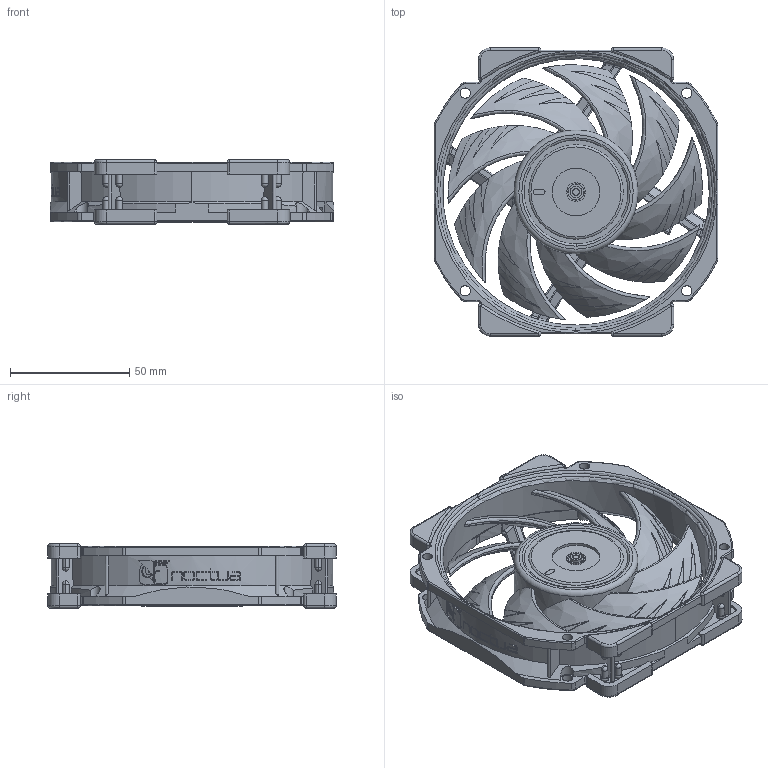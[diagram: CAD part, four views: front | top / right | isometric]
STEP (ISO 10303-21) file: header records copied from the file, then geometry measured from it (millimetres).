
FILE_DESCRIPTION(/* description */ ('140mm Desk Fan'),/* implementation_level */ '2;1');
FILE_NAME(/* name */ 'NF-A12x25r_Public-CAD',/* time_stamp */ '2026-04-09T17:36:39+02:00',/* author */ ('Andreas'),/* organization */ ('Rascom'),/* preprocessor_version */ 'ST-DEVELOPER v18.102',/* originating_system */ 'Solid Edge',/* authorisation */ 'Unknown');
FILE_SCHEMA (('AUTOMOTIVE_DESIGN {1 0 10303 214 3 1 1}'));
Products named in the file (6): NF-A12x25r_Public-CAD; NF-A12x25r_Frame-Public; NF-A12x25_Impeller-Public; NA-AVP3a; NA-AVP3b; Fan-Label-D42mm
Assembly tree (11 placements, depth 2):
  NF-A12x25r_Public-CAD
    NF-A12x25r_Frame-Public
    NF-A12x25_Impeller-Public
    NA-AVP3a  x4
    NA-AVP3b  x4
    Fan-Label-D42mm
Bounding box: 119 x 121 x 27 mm (x, y, z)
Volume: 103539.3 mm3; surface area: 70478.7 mm2
Topology: 11 solids, 11 shells, 2239 faces, 6087 edges, 3938 vertices
Faces by surface type: cylinder 878, plane 830, bspline 176, torus 161, cone 133, sphere 61
Full cylindrical faces by diameter (mm): 2.97 x1, 5 x1, 8 x1, 20 x1, 42 x1, 52 x1, 112 x1
Entity records: 68592 total; most frequent: CARTESIAN_POINT 27997, ORIENTED_EDGE 8448, DIRECTION 7143, EDGE_CURVE 4224, VERTEX_POINT 2734, AXIS2_PLACEMENT_3D 2685, LINE 1773, VECTOR 1773
